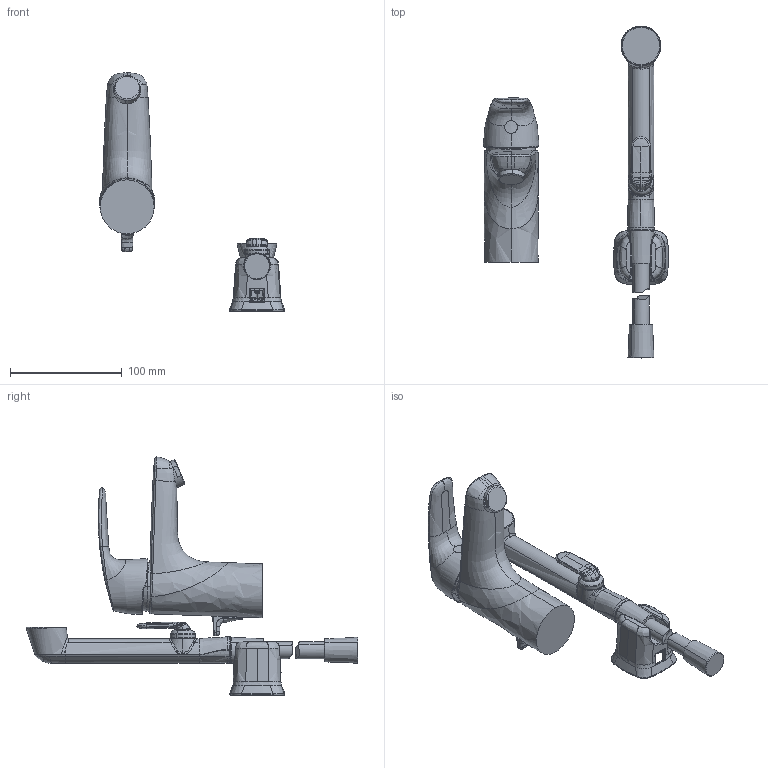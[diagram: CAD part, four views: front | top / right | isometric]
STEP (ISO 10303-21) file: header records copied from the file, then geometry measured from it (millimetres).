
FILE_DESCRIPTION (( 'STEP AP203' ), '1' );
FILE_NAME ('1008(2023)+1008F(2023).STEP', '2023-09-20T04:18:34', ( '' ), ( '' ), 'SwSTEP 2.0', 'SolidWorks 2016', '' );
FILE_SCHEMA (( 'CONFIG_CONTROL_DESIGN' ));
Products named in the file (1): 1008(2023)+1008F(2023)
Bounding box: 165.58 x 296.68 x 212.96 mm (x, y, z)
Volume: 497772.9 mm3; surface area: 91003.3 mm2
Topology: 11 solids, 11 shells, 1098 faces, 2636 edges, 1566 vertices
Faces by surface type: bspline 730, plane 156, cylinder 107, cone 91, torus 12, sphere 2
Entity records: 125774 total; most frequent: CARTESIAN_POINT 106431, ORIENTED_EDGE 5246, EDGE_CURVE 2623, DIRECTION 2229, VERTEX_POINT 1566, B_SPLINE_CURVE_WITH_KNOTS 1447, EDGE_LOOP 1119, ADVANCED_FACE 1098
